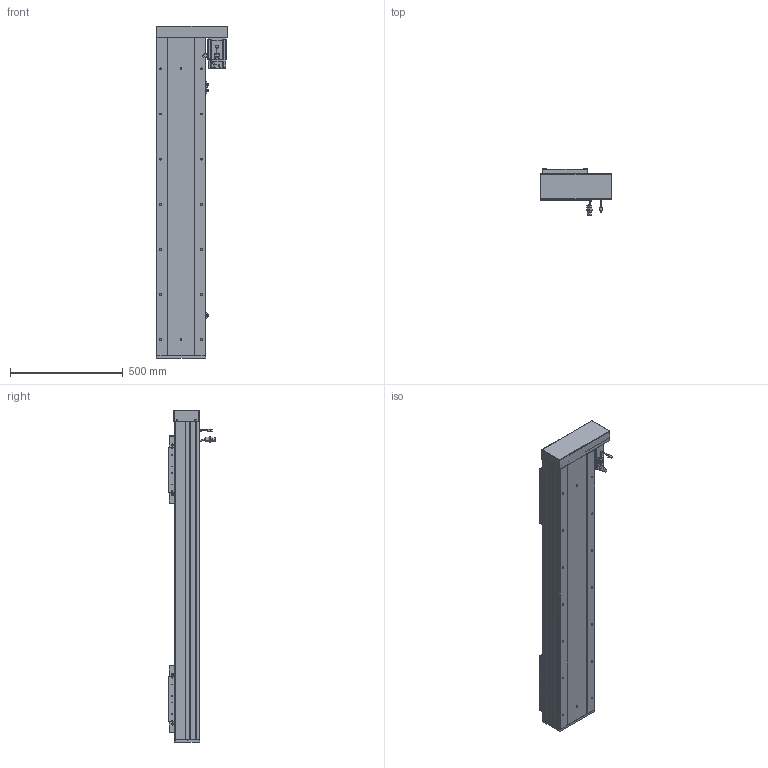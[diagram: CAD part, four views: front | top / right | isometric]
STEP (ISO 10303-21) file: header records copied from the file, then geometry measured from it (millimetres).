
FILE_DESCRIPTION (( 'STEP AP203' ), '1' );
FILE_NAME ('RY220F-L2525-300-RK.SLDASM_1000.step', '2022-07-04T01:35:20', ( '' ), ( '' ), 'SwSTEP 2.0', 'SolidWorks 2016', '' );
FILE_SCHEMA (( 'CONFIG_CONTROL_DESIGN' ));
Length unit declared in the file: millimetre
Products named in the file (15): RY220F臏賑釱25-32佪裝; RY220F蛌殏菁釱-300_1000; RY220F-L2525-300-RK.SLDASM_1000; 侐源滅袉蝶; RY220酘衵殏萇儂欶; RY220F-672覜茼んえ; 怢湛750W_ECMA-CX0807ES; RY220F-詩湍揤踡輸; RY220F-祥凄詩湍-蛌殏-300_1000; RY220F-蛌殏奻裔啣-300_1000; 覜茼ん672; RY220左右折电机安装板; RY220F綴裔啣; RY220F-滅鳥奻裔; 滅袉蝶18-24
Assembly tree (24 placements, depth 2):
  RY220F-L2525-300-RK.SLDASM_1000
    RY220F蛌殏菁釱-300_1000
    RY220F-蛌殏奻裔啣-300_1000  x2
    怢湛750W_ECMA-CX0807ES
    RY220F臏賑釱25-32佪裝  x2
    RY220F-滅鳥奻裔  x2
    滅袉蝶18-24  x3
    RY220F綴裔啣
    RY220F-祥凄詩湍-蛌殏-300_1000
    RY220F-詩湍揤踡輸  x2
    覜茼ん672  x3
    RY220F-672覜茼んえ  x2
    RY220左右折电机安装板
    RY220酘衵殏萇儂欶
    侐源滅袉蝶  x2
Bounding box: 317.5 x 205.27 x 1471 mm (x, y, z)
Volume: 14452962.7 mm3; surface area: 3770773.4 mm2
Topology: 25 solids, 25 shells, 2736 faces, 7448 edges, 4618 vertices
Faces by surface type: cylinder 1230, plane 1044, cone 391, bspline 45, sphere 16, torus 10
Entity records: 67812 total; most frequent: CARTESIAN_POINT 18503, ORIENTED_EDGE 9974, DIRECTION 9664, EDGE_CURVE 4987, AXIS2_PLACEMENT_3D 3430, VERTEX_POINT 3234, LINE 2804, VECTOR 2804
